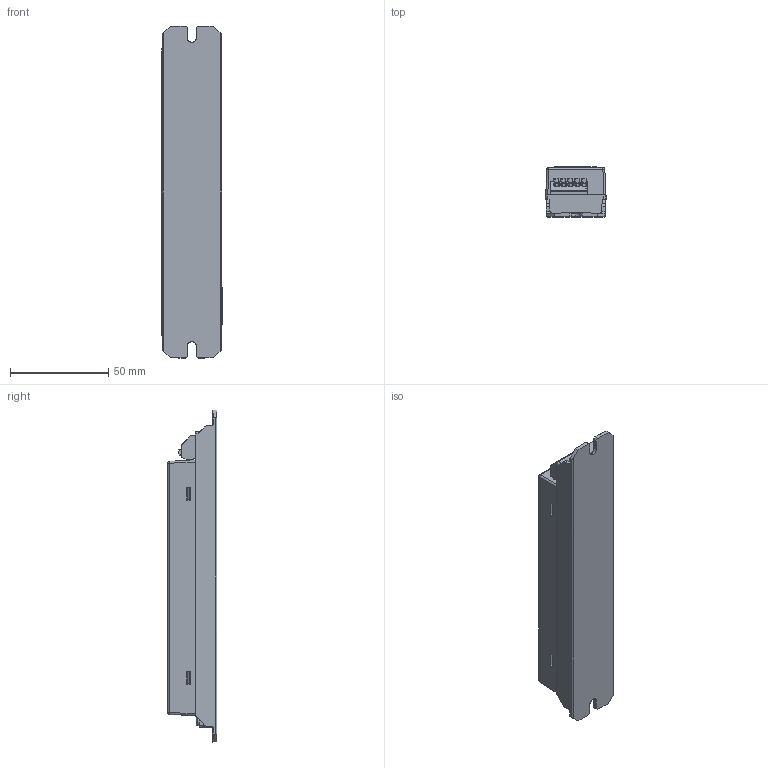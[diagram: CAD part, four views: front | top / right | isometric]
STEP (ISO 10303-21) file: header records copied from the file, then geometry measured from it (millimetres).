
FILE_DESCRIPTION (( 'STEP AP214' ), '1' );
FILE_NAME ('ORB2537-M01.STEP', '2018-04-05T16:50:25', ( 'LEVADMIN' ), ( 'LEVITON' ), 'SwSTEP 2.0', 'SolidWorks 2017', '' );
FILE_SCHEMA (( 'AUTOMOTIVE_DESIGN' ));
Length unit declared in the file: millimetre
Products named in the file (12): OXB5786-M01; OFB5567-M01; ORB4947-M01; OX62067-M01 ref; ptsa_1.5_5-3.5-z; BAB2536-M01; OXB5259-M01; ORB3074-M05; BAB2535-M01_Vertical; OG62562-M02-REF-MM-REV-A00_LDG 7.5; ORB4876-M01; ORB2537-M01
Assembly tree (11 placements, depth 2):
  ORB4947-M01
  ORB2537-M01
    ORB4876-M01
    OG62562-M02-REF-MM-REV-A00_LDG 7.5  x2
    BAB2535-M01_Vertical
    ORB3074-M05
    OXB5259-M01
    BAB2536-M01
    ptsa_1.5_5-3.5-z
    OX62067-M01 ref
    OFB5567-M01
    OXB5786-M01
Bounding box: 30.7 x 25.26 x 169 mm (x, y, z)
Volume: 38337.3 mm3; surface area: 72984.1 mm2
Topology: 14 solids, 75 shells, 2437 faces, 7170 edges, 4866 vertices
Faces by surface type: plane 1522, cylinder 658, bspline 168, cone 67, torus 13, sphere 9
Entity records: 107670 total; most frequent: CARTESIAN_POINT 29846, ORIENTED_EDGE 13140, DIRECTION 11449, EDGE_CURVE 7000, VERTEX_POINT 4758, LINE 4731, VECTOR 4731, AXIS2_PLACEMENT_3D 3359
